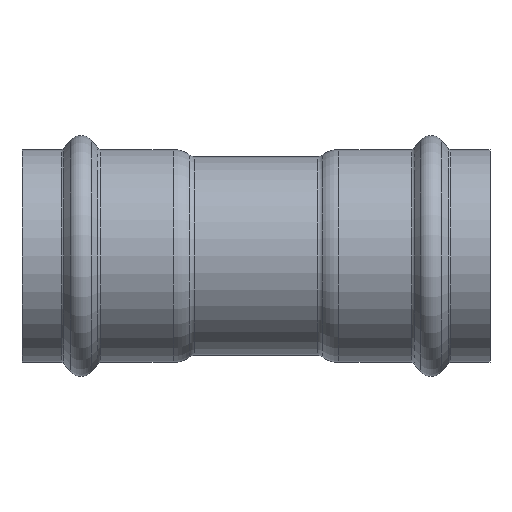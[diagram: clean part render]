
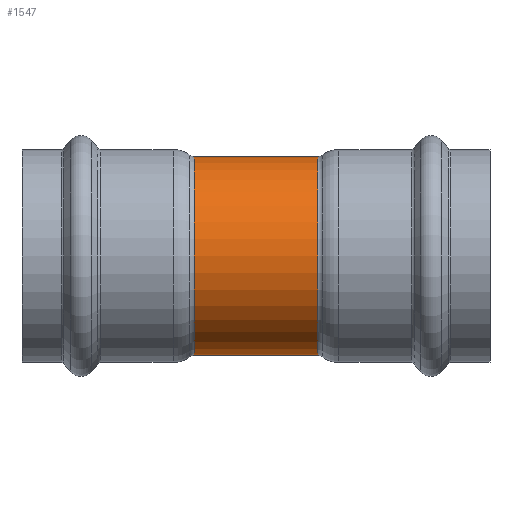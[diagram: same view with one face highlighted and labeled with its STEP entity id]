
A CAD part, front view. The second image highlights one B-rep face of the part: STEP entity #1547.
In plain terms, the highlighted cylindrical face has radius 27 mm (diameter 54 mm), a partial arc.
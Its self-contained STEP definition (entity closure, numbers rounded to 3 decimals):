
#44 = DIRECTION ( 'NONE',  ( 0., 0., 1. ) ) ;
#195 = EDGE_LOOP ( 'NONE', ( #4997, #1144, #2612, #510 ) ) ;
#510 = ORIENTED_EDGE ( 'NONE', *, *, #1057, .F. ) ;
#574 = CIRCLE ( 'NONE', #2851, 27. ) ;
#623 = DIRECTION ( 'NONE',  ( 0., 0., 1. ) ) ;
#647 = CIRCLE ( 'NONE', #2911, 27. ) ;
#885 = CARTESIAN_POINT ( 'NONE',  ( -17.486, 0., -27. ) ) ;
#1052 = AXIS2_PLACEMENT_3D ( 'NONE', #4547, #1814, #623 ) ;
#1057 = EDGE_CURVE ( 'NONE', #1774, #5007, #574, .T. ) ;
#1144 = ORIENTED_EDGE ( 'NONE', *, *, #4568, .T. ) ;
#1352 = VERTEX_POINT ( 'NONE', #3528 ) ;
#1445 = VECTOR ( 'NONE', #2468, 1000. ) ;
#1525 = DIRECTION ( 'NONE',  ( -1., 0., 0. ) ) ;
#1547 = ADVANCED_FACE ( 'NONE', ( #3123 ), #4926, .T. ) ;
#1774 = VERTEX_POINT ( 'NONE', #1862 ) ;
#1814 = DIRECTION ( 'NONE',  ( -1., 0., 0. ) ) ;
#1862 = CARTESIAN_POINT ( 'NONE',  ( -16.734, 0., -27. ) ) ;
#2128 = LINE ( 'NONE', #885, #1445 ) ;
#2246 = CARTESIAN_POINT ( 'NONE',  ( -16.734, 0., 27. ) ) ;
#2376 = CARTESIAN_POINT ( 'NONE',  ( 16.734, 0., -27. ) ) ;
#2413 = DIRECTION ( 'NONE',  ( -1., 0., 0. ) ) ;
#2422 = DIRECTION ( 'NONE',  ( -1., 0., 0. ) ) ;
#2443 = DIRECTION ( 'NONE',  ( 0., 0., 1. ) ) ;
#2468 = DIRECTION ( 'NONE',  ( -1., 0., 0. ) ) ;
#2612 = ORIENTED_EDGE ( 'NONE', *, *, #2684, .T. ) ;
#2638 = LINE ( 'NONE', #3868, #4591 ) ;
#2684 = EDGE_CURVE ( 'NONE', #1352, #5007, #2638, .T. ) ;
#2851 = AXIS2_PLACEMENT_3D ( 'NONE', #3977, #2422, #2443 ) ;
#2911 = AXIS2_PLACEMENT_3D ( 'NONE', #4742, #2413, #44 ) ;
#3123 = FACE_OUTER_BOUND ( 'NONE', #195, .T. ) ;
#3528 = CARTESIAN_POINT ( 'NONE',  ( 16.734, 0., 27. ) ) ;
#3868 = CARTESIAN_POINT ( 'NONE',  ( -17.486, 0., 27. ) ) ;
#3977 = CARTESIAN_POINT ( 'NONE',  ( -16.734, 0., 0. ) ) ;
#4521 = VERTEX_POINT ( 'NONE', #2376 ) ;
#4547 = CARTESIAN_POINT ( 'NONE',  ( -17.486, 0., 0. ) ) ;
#4568 = EDGE_CURVE ( 'NONE', #4521, #1352, #647, .T. ) ;
#4591 = VECTOR ( 'NONE', #1525, 1000. ) ;
#4724 = EDGE_CURVE ( 'NONE', #4521, #1774, #2128, .T. ) ;
#4742 = CARTESIAN_POINT ( 'NONE',  ( 16.734, 0., 0. ) ) ;
#4926 = CYLINDRICAL_SURFACE ( 'NONE', #1052, 27. ) ;
#4997 = ORIENTED_EDGE ( 'NONE', *, *, #4724, .F. ) ;
#5007 = VERTEX_POINT ( 'NONE', #2246 ) ;
